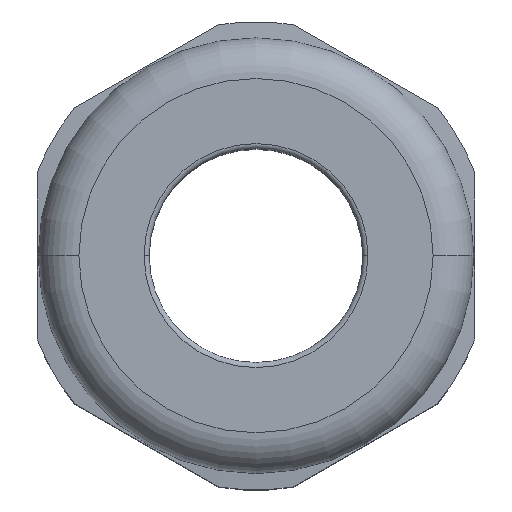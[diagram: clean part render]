
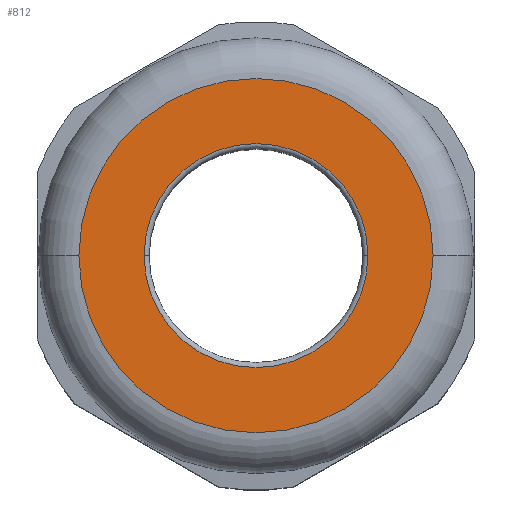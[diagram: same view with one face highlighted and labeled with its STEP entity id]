
A CAD part, top view. The second image highlights one B-rep face of the part: STEP entity #812.
In plain terms, the highlighted planar face has unit normal (0, 0, 1).
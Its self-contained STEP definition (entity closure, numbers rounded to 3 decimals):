
#326 = VERTEX_POINT ( 'NONE', #1414 ) ;
#327 = EDGE_CURVE ( 'NONE', #358, #375, #1363, .T. ) ;
#358 = VERTEX_POINT ( 'NONE', #1509 ) ;
#375 = VERTEX_POINT ( 'NONE', #1439 ) ;
#500 = EDGE_CURVE ( 'NONE', #509, #326, #1736, .T. ) ;
#505 = ORIENTED_EDGE ( 'NONE', *, *, #793, .T. ) ;
#509 = VERTEX_POINT ( 'NONE', #1742 ) ;
#785 = ORIENTED_EDGE ( 'NONE', *, *, #327, .F. ) ;
#786 = ORIENTED_EDGE ( 'NONE', *, *, #810, .F. ) ;
#793 = EDGE_CURVE ( 'NONE', #326, #509, #2256, .T. ) ;
#795 = EDGE_LOOP ( 'NONE', ( #785, #786 ) ) ;
#810 = EDGE_CURVE ( 'NONE', #375, #358, #2301, .T. ) ;
#812 = ADVANCED_FACE ( 'NONE', ( #2302, #2288 ), #2294, .T. ) ;
#813 = EDGE_LOOP ( 'NONE', ( #814, #505 ) ) ;
#814 = ORIENTED_EDGE ( 'NONE', *, *, #500, .T. ) ;
#1359 = DIRECTION ( 'NONE',  ( -1., 0., 0. ) ) ;
#1360 = DIRECTION ( 'NONE',  ( 0., 0., -1. ) ) ;
#1361 = CARTESIAN_POINT ( 'NONE',  ( 0., 0., 41. ) ) ;
#1362 = AXIS2_PLACEMENT_3D ( 'NONE', #1361, #1360, #1359 ) ;
#1363 = CIRCLE ( 'NONE', #1362, 17.4 ) ;
#1414 = CARTESIAN_POINT ( 'NONE',  ( 11., 0., 41. ) ) ;
#1439 = CARTESIAN_POINT ( 'NONE',  ( 17.4, 0., 41. ) ) ;
#1509 = CARTESIAN_POINT ( 'NONE',  ( -17.4, 0., 41. ) ) ;
#1715 = DIRECTION ( 'NONE',  ( -1., 0., 0. ) ) ;
#1716 = DIRECTION ( 'NONE',  ( 0., 0., -1. ) ) ;
#1734 = CARTESIAN_POINT ( 'NONE',  ( 0., 0., 41. ) ) ;
#1735 = AXIS2_PLACEMENT_3D ( 'NONE', #1734, #1716, #1715 ) ;
#1736 = CIRCLE ( 'NONE', #1735, 11. ) ;
#1742 = CARTESIAN_POINT ( 'NONE',  ( -11., 0., 41. ) ) ;
#2223 = DIRECTION ( 'NONE',  ( 0., 0., -1. ) ) ;
#2256 = CIRCLE ( 'NONE', #2287, 11. ) ;
#2277 = CARTESIAN_POINT ( 'NONE',  ( 0., 0., 41. ) ) ;
#2282 = DIRECTION ( 'NONE',  ( 1., 0., 0. ) ) ;
#2283 = DIRECTION ( 'NONE',  ( 0., 0., 1. ) ) ;
#2284 = AXIS2_PLACEMENT_3D ( 'NONE', #2293, #2283, #2282 ) ;
#2287 = AXIS2_PLACEMENT_3D ( 'NONE', #2277, #2223, #2327 ) ;
#2288 = FACE_OUTER_BOUND ( 'NONE', #795, .T. ) ;
#2289 = DIRECTION ( 'NONE',  ( -1., 0., 0. ) ) ;
#2293 = CARTESIAN_POINT ( 'NONE',  ( 0., 17.4, 41. ) ) ;
#2294 = PLANE ( 'NONE',  #2284 ) ;
#2298 = DIRECTION ( 'NONE',  ( 0., 0., -1. ) ) ;
#2299 = CARTESIAN_POINT ( 'NONE',  ( 0., 0., 41. ) ) ;
#2300 = AXIS2_PLACEMENT_3D ( 'NONE', #2299, #2298, #2289 ) ;
#2301 = CIRCLE ( 'NONE', #2300, 17.4 ) ;
#2302 = FACE_BOUND ( 'NONE', #813, .T. ) ;
#2327 = DIRECTION ( 'NONE',  ( -1., 0., 0. ) ) ;
